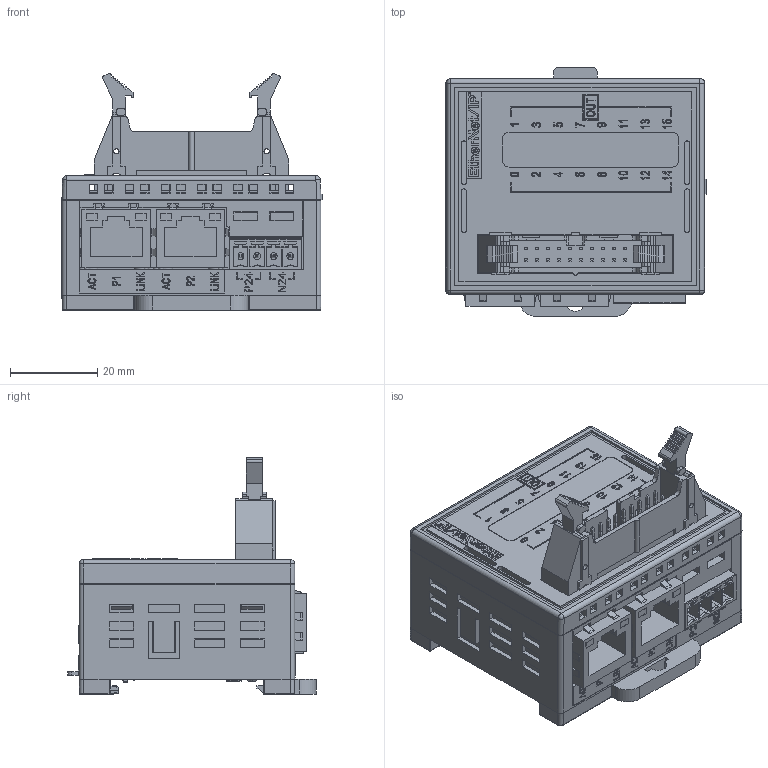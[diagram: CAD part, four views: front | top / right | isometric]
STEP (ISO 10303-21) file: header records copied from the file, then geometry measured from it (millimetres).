
FILE_DESCRIPTION((''),'2;1');
FILE_NAME('EICMP0F','2026-05-11T14:27:33',('gijyu181'),(''),'CREO PARAMETRIC BY PTC INC, 2018050','CREO PARAMETRIC BY PTC INC, 2018050','');
FILE_SCHEMA(('CONFIG_CONTROL_DESIGN','SHAPE_APPEARANCE_LAYERS_GROUPS'));
Products named in the file (1): EICMP0F
Bounding box: 59.75 x 57.15 x 54.5 mm (x, y, z)
Volume: 70721 mm3; surface area: 38772.9 mm2
Topology: 1 solids, 15 shells, 6258 faces, 17322 edges, 11395 vertices
Faces by surface type: plane 4755, extrusion 708, cylinder 681, sphere 44, torus 26, bspline 24, cone 20
Entity records: 249474 total; most frequent: CARTESIAN_POINT 43779, ORIENTED_EDGE 34616, DIRECTION 28717, EDGE_CURVE 17312, VECTOR 14899, LINE 14191, VERTEX_POINT 11395, PRESENTATION_STYLE_ASSIGNMENT 9515
